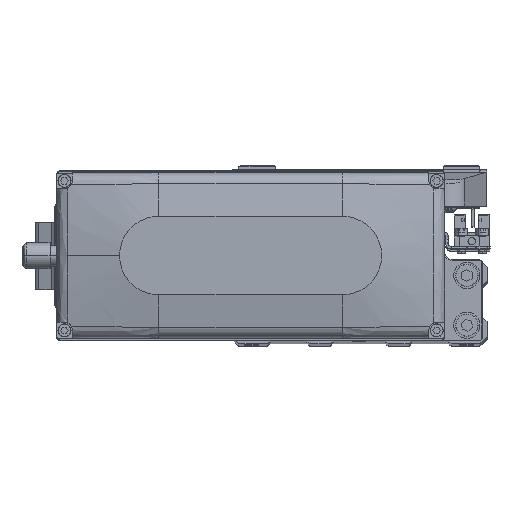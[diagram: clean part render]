
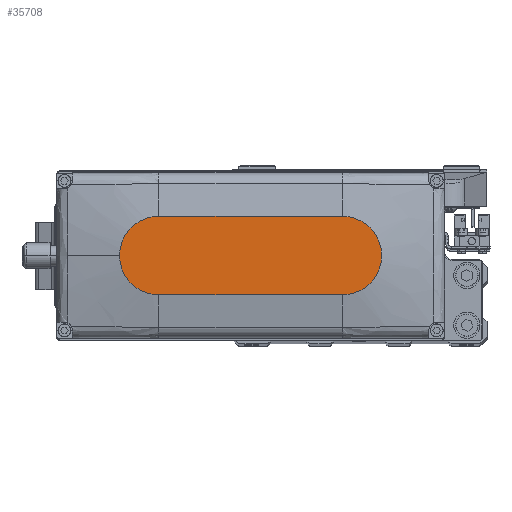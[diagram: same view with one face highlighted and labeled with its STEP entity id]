
A CAD part, top view. The second image highlights one B-rep face of the part: STEP entity #35708.
In plain terms, the highlighted planar face has unit normal (0, 0, 1).
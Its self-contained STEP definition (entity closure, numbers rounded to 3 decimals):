
#356 = DIRECTION ( 'NONE',  ( 0., 0., 1. ) ) ;
#1778 = DIRECTION ( 'NONE',  ( 0., 0., 1. ) ) ;
#2430 = EDGE_CURVE ( 'NONE', #43038, #44407, #14927, .T. ) ;
#3664 = EDGE_CURVE ( 'NONE', #9204, #45377, #28355, .T. ) ;
#3911 = CIRCLE ( 'NONE', #29665, 15. ) ;
#3916 = AXIS2_PLACEMENT_3D ( 'NONE', #30707, #44781, #13210 ) ;
#5221 = FACE_OUTER_BOUND ( 'NONE', #26104, .T. ) ;
#6953 = CIRCLE ( 'NONE', #32708, 15. ) ;
#9204 = VERTEX_POINT ( 'NONE', #39654 ) ;
#9833 = EDGE_CURVE ( 'NONE', #44407, #9204, #3911, .T. ) ;
#10702 = DIRECTION ( 'NONE',  ( 1., 0., 0. ) ) ;
#10840 = DIRECTION ( 'NONE',  ( 1., 0., 0. ) ) ;
#11962 = CARTESIAN_POINT ( 'NONE',  ( 50., 0., 35. ) ) ;
#12958 = VERTEX_POINT ( 'NONE', #11962 ) ;
#13210 = DIRECTION ( 'NONE',  ( 1., 0., 0. ) ) ;
#14413 = DIRECTION ( 'NONE',  ( 1., 0., 0. ) ) ;
#14927 = LINE ( 'NONE', #28974, #28710 ) ;
#15834 = DIRECTION ( 'NONE',  ( 1., 0., 0. ) ) ;
#16114 = ORIENTED_EDGE ( 'NONE', *, *, #9833, .T. ) ;
#18091 = AXIS2_PLACEMENT_3D ( 'NONE', #33325, #1778, #15834 ) ;
#19293 = PLANE ( 'NONE',  #18091 ) ;
#22517 = EDGE_CURVE ( 'NONE', #12958, #43038, #23789, .T. ) ;
#23155 = CARTESIAN_POINT ( 'NONE',  ( 35., 15., 35. ) ) ;
#23482 = ORIENTED_EDGE ( 'NONE', *, *, #3664, .T. ) ;
#23789 = CIRCLE ( 'NONE', #3916, 15. ) ;
#26104 = EDGE_LOOP ( 'NONE', ( #42297, #16114, #23482, #45101, #29757 ) ) ;
#27757 = CARTESIAN_POINT ( 'NONE',  ( -35., 15., 35. ) ) ;
#28211 = CARTESIAN_POINT ( 'NONE',  ( -35., 0., 35. ) ) ;
#28355 = LINE ( 'NONE', #42405, #41661 ) ;
#28710 = VECTOR ( 'NONE', #43035, 1000. ) ;
#28974 = CARTESIAN_POINT ( 'NONE',  ( -35., 15., 35. ) ) ;
#29665 = AXIS2_PLACEMENT_3D ( 'NONE', #28211, #42266, #10702 ) ;
#29757 = ORIENTED_EDGE ( 'NONE', *, *, #22517, .T. ) ;
#30707 = CARTESIAN_POINT ( 'NONE',  ( 35., 0., 35. ) ) ;
#31908 = CARTESIAN_POINT ( 'NONE',  ( 35., 0., 35. ) ) ;
#32708 = AXIS2_PLACEMENT_3D ( 'NONE', #31908, #356, #14413 ) ;
#33325 = CARTESIAN_POINT ( 'NONE',  ( 0., 0., 35. ) ) ;
#34728 = EDGE_CURVE ( 'NONE', #45377, #12958, #6953, .T. ) ;
#35013 = CARTESIAN_POINT ( 'NONE',  ( 35., -15., 35. ) ) ;
#35708 = ADVANCED_FACE ( 'NONE', ( #5221 ), #19293, .T. ) ;
#39654 = CARTESIAN_POINT ( 'NONE',  ( -35., -15., 35. ) ) ;
#41661 = VECTOR ( 'NONE', #10840, 1000. ) ;
#42266 = DIRECTION ( 'NONE',  ( 0., 0., 1. ) ) ;
#42297 = ORIENTED_EDGE ( 'NONE', *, *, #2430, .T. ) ;
#42405 = CARTESIAN_POINT ( 'NONE',  ( -35., -15., 35. ) ) ;
#43035 = DIRECTION ( 'NONE',  ( -1., 0., 0. ) ) ;
#43038 = VERTEX_POINT ( 'NONE', #23155 ) ;
#44407 = VERTEX_POINT ( 'NONE', #27757 ) ;
#44781 = DIRECTION ( 'NONE',  ( 0., 0., 1. ) ) ;
#45101 = ORIENTED_EDGE ( 'NONE', *, *, #34728, .T. ) ;
#45377 = VERTEX_POINT ( 'NONE', #35013 ) ;
